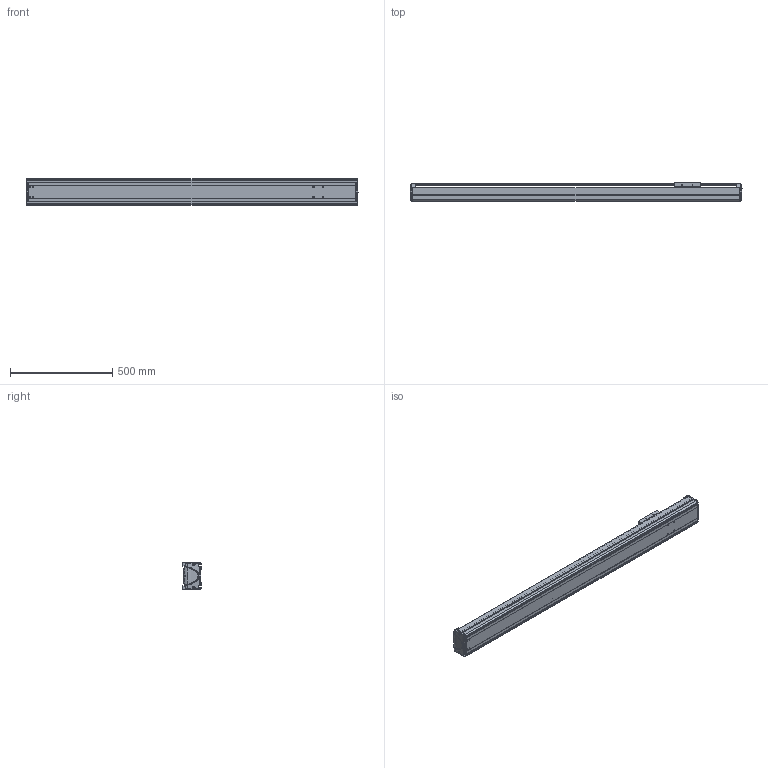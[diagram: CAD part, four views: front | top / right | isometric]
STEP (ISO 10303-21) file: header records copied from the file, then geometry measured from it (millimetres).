
FILE_DESCRIPTION((''),'2;1');
FILE_NAME('BE30E-ST-M_B-C5_IGS_PRT','2017-06-17T',(' '),(''),'PRO/ENGINEER BY PARAMETRIC TECHNOLOGY CORPORATION, 2015030','PRO/ENGINEER BY PARAMETRIC TECHNOLOGY CORPORATION, 2015030','');
FILE_SCHEMA(('CONFIG_CONTROL_DESIGN'));
Length unit declared in the file: millimetre
Products named in the file (1): BE30E-ST-M_B-C5_IGS_PRT
Bounding box: 1625 x 89.8 x 130 mm (x, y, z)
Volume: 4889742.8 mm3; surface area: 1906970.2 mm2
Topology: 3 solids, 100 shells, 1424 faces, 3846 edges, 2517 vertices
Faces by surface type: cylinder 671, plane 602, bspline 55, torus 42, cone 30, sphere 24
Entity records: 47973 total; most frequent: CARTESIAN_POINT 12011, DIRECTION 7427, ORIENTED_EDGE 7266, EDGE_CURVE 3826, AXIS2_PLACEMENT_3D 2708, VERTEX_POINT 2517, VECTOR 2011, LINE 2011
